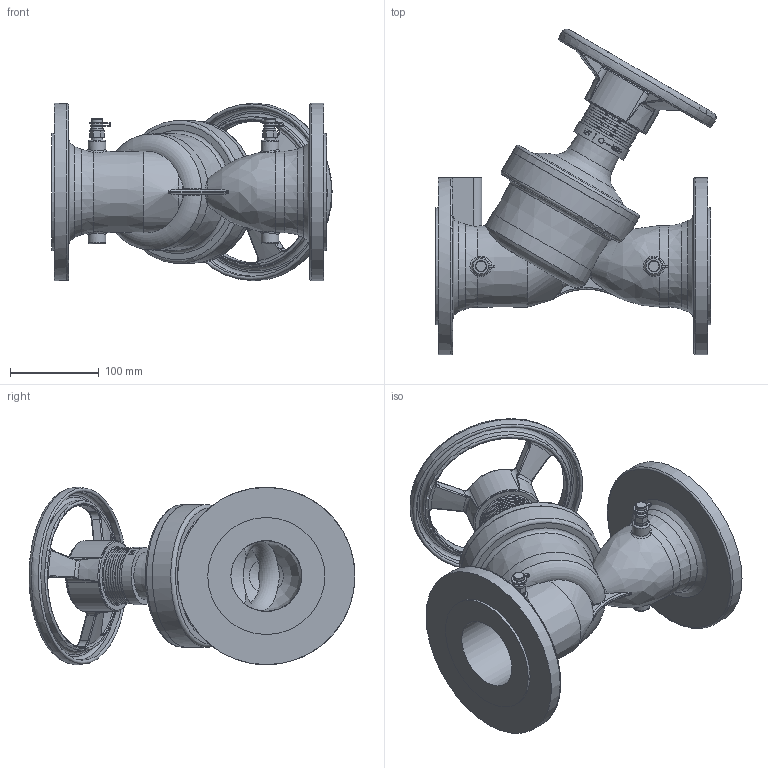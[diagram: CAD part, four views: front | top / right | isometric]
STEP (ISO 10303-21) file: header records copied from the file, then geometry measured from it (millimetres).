
FILE_DESCRIPTION((''),'2;1');
FILE_NAME('P:\Fastrack\53972_CRANE 3D\DM921-941\WORKSPACE\DM921-941\DM931_DN80\DM931_DN80.stp','2011-02-25T11:06:15',('btaylor'),(''),'Autodesk Inventor 2008','Autodesk Inventor 2008','');
FILE_SCHEMA(('AUTOMOTIVE_DESIGN { 1 0 10303 214 1 1 1 1 }'));
Length unit declared in the file: millimetre
Products named in the file (1): DM931_DN80
Bounding box: 316.32 x 367.6 x 200.17 mm (x, y, z)
Volume: 922087.3 mm3; surface area: 515485.2 mm2
Topology: 3 solids, 4 shells, 889 faces, 2249 edges, 1436 vertices
Faces by surface type: plane 345, bspline 277, cylinder 150, cone 82, torus 35
Full cylindrical faces by diameter (mm): 6 x2, 7.4 x2, 8 x8, 9.5 x6, 11 x2, 12.7 x2, 13.7 x2, 17.3 x1, 20 x4, 24 x1, 53 x1, 55.7 x1, 58 x1, 62 x4, 65 x1, 108 x1, 113 x1, 125 x1, 132 x2
Entity records: 75204 total; most frequent: CARTESIAN_POINT 55571, ORIENTED_EDGE 4114, DIRECTION 3108, EDGE_CURVE 2057, VERTEX_POINT 1375, AXIS2_PLACEMENT_3D 1152, EDGE_LOOP 1112, STYLED_ITEM 890
